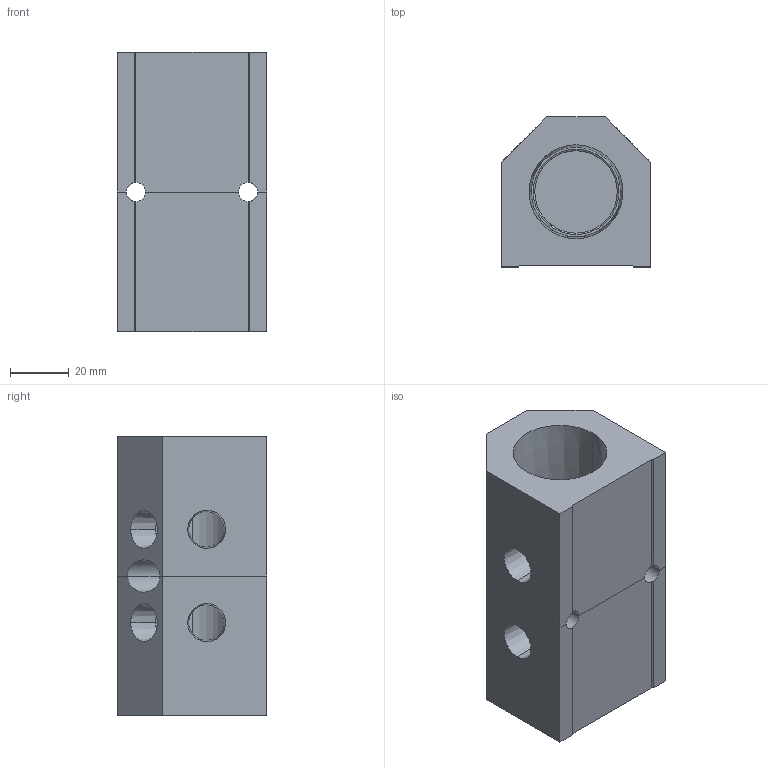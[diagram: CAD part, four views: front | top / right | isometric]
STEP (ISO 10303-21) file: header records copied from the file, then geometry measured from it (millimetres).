
FILE_DESCRIPTION (( 'STEP AP214' ), '1' );
FILE_NAME ('ALM2ABC-N4N16-95RB.STEP', '2023-11-02T06:06:11', ( '' ), ( '' ), 'SwSTEP 2.0', 'SolidWorks 2020', '' );
FILE_SCHEMA (( 'AUTOMOTIVE_DESIGN' ));
Length unit declared in the file: millimetre
Products named in the file (1): ALM2ABC-N4N16-95RB
Bounding box: 50.8 x 50.8 x 95 mm (x, y, z)
Volume: 143820.5 mm3; surface area: 37302.4 mm2
Topology: 2 solids, 2 shells, 343 faces, 899 edges, 596 vertices
Faces by surface type: plane 236, bspline 67, cylinder 20, cone 20
Entity records: 18259 total; most frequent: CARTESIAN_POINT 7146, ORIENTED_EDGE 1798, DIRECTION 1349, EDGE_CURVE 899, VECTOR 683, LINE 683, VERTEX_POINT 596, EDGE_LOOP 391
